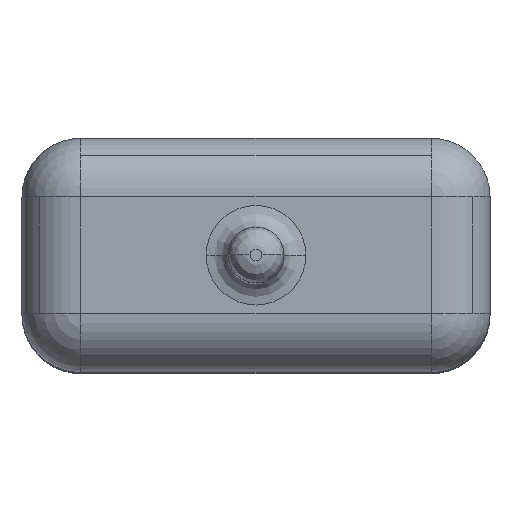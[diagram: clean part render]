
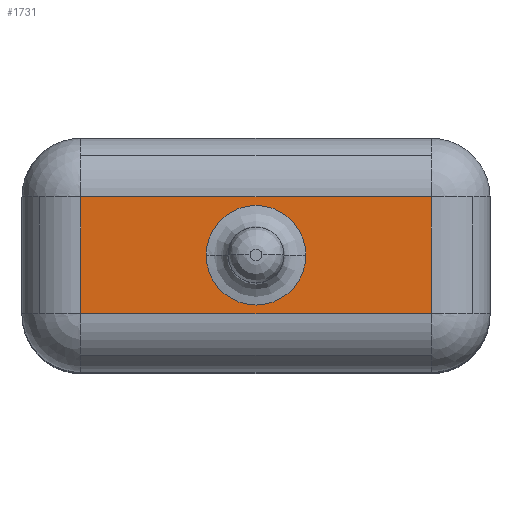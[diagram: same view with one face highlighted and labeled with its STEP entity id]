
A CAD part, top view. The second image highlights one B-rep face of the part: STEP entity #1731.
In plain terms, the highlighted planar face has unit normal (0, 0, 1).
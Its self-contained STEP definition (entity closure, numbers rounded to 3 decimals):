
#605=CARTESIAN_POINT('',(0.206,1.053,0.48));
#606=VERTEX_POINT('',#605);
#614=CARTESIAN_POINT('',(2.606,1.053,0.48));
#615=VERTEX_POINT('',#614);
#616=CARTESIAN_POINT('',(0.206,1.053,0.48));
#617=DIRECTION('',(1.0,0.0,0.0));
#618=VECTOR('',#617,2.4);
#619=LINE('',#616,#618);
#620=EDGE_CURVE('',#606,#615,#619,.T.);
#696=CARTESIAN_POINT('',(2.606,0.253,0.48));
#697=VERTEX_POINT('',#696);
#698=CARTESIAN_POINT('',(2.606,1.053,0.48));
#699=DIRECTION('',(0.0,-1.0,0.0));
#700=VECTOR('',#699,0.8);
#701=LINE('',#698,#700);
#702=EDGE_CURVE('',#615,#697,#701,.T.);
#729=CARTESIAN_POINT('',(0.206,0.253,0.48));
#730=VERTEX_POINT('',#729);
#738=CARTESIAN_POINT('',(0.206,0.253,0.48));
#739=DIRECTION('',(0.0,1.0,0.0));
#740=VECTOR('',#739,0.8);
#741=LINE('',#738,#740);
#742=EDGE_CURVE('',#730,#606,#741,.T.);
#776=CARTESIAN_POINT('',(2.606,0.253,0.48));
#777=DIRECTION('',(-1.0,0.0,0.0));
#778=VECTOR('',#777,2.4);
#779=LINE('',#776,#778);
#780=EDGE_CURVE('',#697,#730,#779,.T.);
#1399=CARTESIAN_POINT('',(1.747,0.653,0.48));
#1400=VERTEX_POINT('',#1399);
#1417=CARTESIAN_POINT('',(1.066,0.653,0.48));
#1418=VERTEX_POINT('',#1417);
#1426=CARTESIAN_POINT('',(1.406,0.653,0.48));
#1427=DIRECTION('',(0.0,0.0,1.0));
#1428=DIRECTION('',(-1.0,0.0,0.0));
#1429=AXIS2_PLACEMENT_3D('',#1426,#1427,#1428);
#1430=CIRCLE('',#1429,0.341);
#1431=EDGE_CURVE('',#1418,#1400,#1430,.T.);
#1704=CARTESIAN_POINT('',(1.406,0.653,0.48));
#1705=DIRECTION('',(0.0,0.0,1.0));
#1706=DIRECTION('',(-1.0,0.0,0.0));
#1707=AXIS2_PLACEMENT_3D('',#1704,#1705,#1706);
#1708=CIRCLE('',#1707,0.341);
#1709=EDGE_CURVE('',#1400,#1418,#1708,.T.);
#1716=CARTESIAN_POINT('',(2.003,0.857,0.48));
#1717=DIRECTION('',(0.0,0.0,1.0));
#1718=DIRECTION('',(1.0,0.0,0.0));
#1719=AXIS2_PLACEMENT_3D('',#1716,#1717,#1718);
#1720=PLANE('',#1719);
#1721=ORIENTED_EDGE('',*,*,#780,.F.);
#1722=ORIENTED_EDGE('',*,*,#702,.F.);
#1723=ORIENTED_EDGE('',*,*,#620,.F.);
#1724=ORIENTED_EDGE('',*,*,#742,.F.);
#1725=EDGE_LOOP('',(#1721,#1722,#1723,#1724));
#1726=FACE_OUTER_BOUND('',#1725,.T.);
#1727=ORIENTED_EDGE('',*,*,#1709,.F.);
#1728=ORIENTED_EDGE('',*,*,#1431,.F.);
#1729=EDGE_LOOP('',(#1727,#1728));
#1730=FACE_BOUND('',#1729,.T.);
#1731=ADVANCED_FACE('',(#1726,#1730),#1720,.T.);
